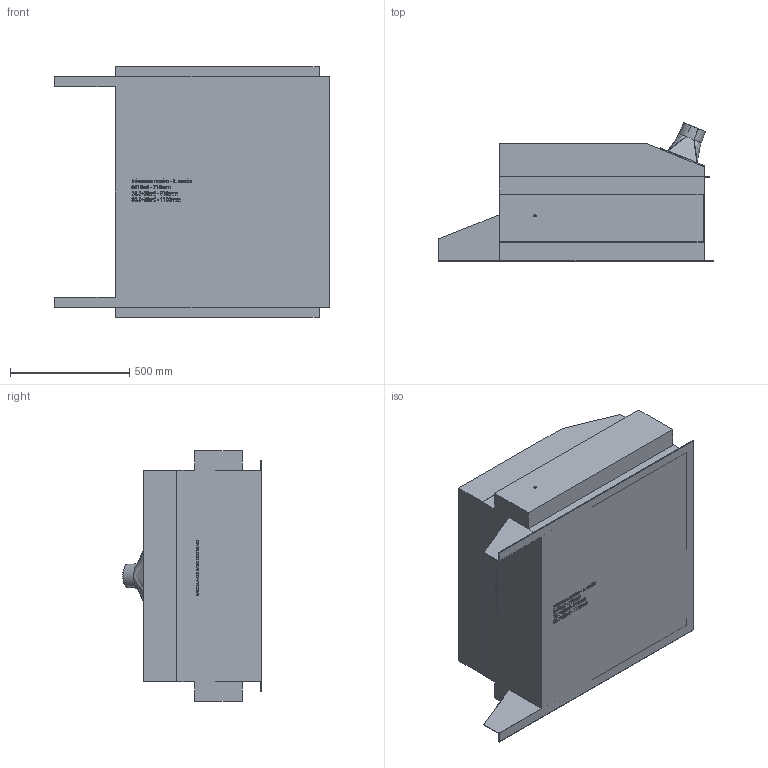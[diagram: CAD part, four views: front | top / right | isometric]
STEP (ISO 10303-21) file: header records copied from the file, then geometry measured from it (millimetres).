
FILE_DESCRIPTION (( 'STEP AP203' ), '1' );
FILE_NAME ('30766.step', '2019-03-14T14:32:53', ( 'PC' ), ( 'Hewlett-Packard Company' ), 'SwSTEP 2.0', 'SolidWorks 2016', '' );
FILE_SCHEMA (( 'CONFIG_CONTROL_DESIGN' ));
Length unit declared in the file: millimetre
Products named in the file (1): 30766
Bounding box: 1150 x 579.4 x 1050 mm (x, y, z)
Volume: 393721582.5 mm3; surface area: 5796329.4 mm2
Topology: 3 solids, 3 shells, 1165 faces, 3095 edges, 2057 vertices
Faces by surface type: plane 700, bspline 443, cylinder 20, cone 2
Entity records: 64426 total; most frequent: CARTESIAN_POINT 38359, ORIENTED_EDGE 6186, DIRECTION 3689, EDGE_CURVE 3093, VECTOR 2163, LINE 2163, VERTEX_POINT 2057, EDGE_LOOP 1304
